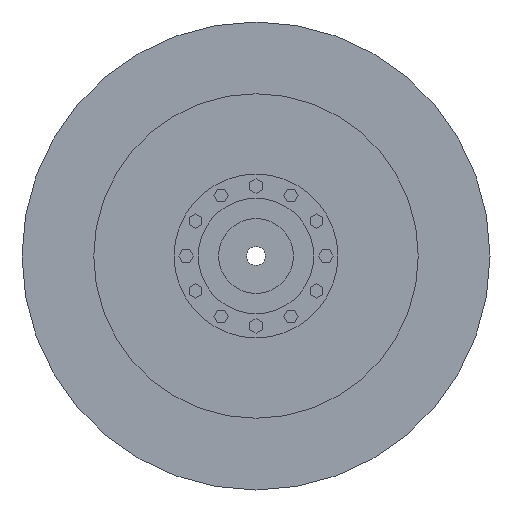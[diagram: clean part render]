
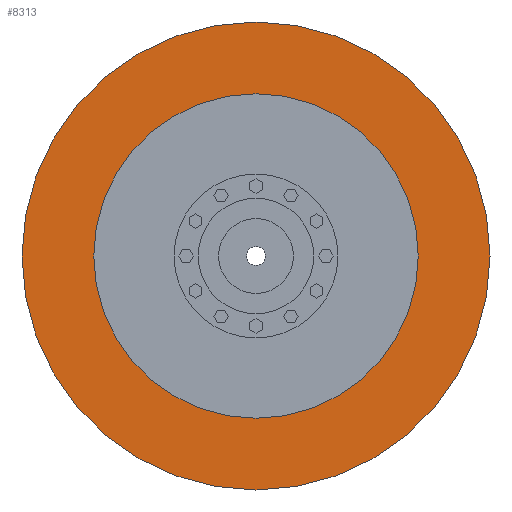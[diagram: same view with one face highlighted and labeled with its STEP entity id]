
A CAD part, left-side view. The second image highlights one B-rep face of the part: STEP entity #8313.
In plain terms, the highlighted planar face has unit normal (-1, 0, 0).
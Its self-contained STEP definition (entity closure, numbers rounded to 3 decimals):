
#8110=CARTESIAN_POINT('',(-37.,0.,0.));
#8111=DIRECTION('',(-1.,0.,0.));
#8112=DIRECTION('',(0.,1.,0.));
#8113=AXIS2_PLACEMENT_3D('',#8110,#8111,#8112);
#8115=CARTESIAN_POINT('',(-37.,0.,0.));
#8116=DIRECTION('',(1.,0.,0.));
#8117=DIRECTION('',(0.,1.,0.));
#8118=AXIS2_PLACEMENT_3D('',#8115,#8116,#8117);
#8120=CARTESIAN_POINT('',(-37.,0.,0.));
#8121=DIRECTION('',(1.,0.,0.));
#8122=DIRECTION('',(0.,1.,0.));
#8123=AXIS2_PLACEMENT_3D('',#8120,#8121,#8122);
#8133=CARTESIAN_POINT('',(-37.,0.,0.));
#8134=DIRECTION('',(-1.,0.,0.));
#8135=DIRECTION('',(0.,1.,0.));
#8136=AXIS2_PLACEMENT_3D('',#8133,#8134,#8135);
#8156=CARTESIAN_POINT('',(-37.,104.,0.));
#8158=VERTEX_POINT('',#8156);
#8168=CARTESIAN_POINT('',(-37.,-104.,0.));
#8170=VERTEX_POINT('',#8168);
#8173=CARTESIAN_POINT('',(-37.,150.,0.));
#8175=VERTEX_POINT('',#8173);
#8177=CARTESIAN_POINT('',(-37.,-150.,0.));
#8179=VERTEX_POINT('',#8177);
#8298=CARTESIAN_POINT('',(-37.,0.,0.));
#8299=DIRECTION('',(1.,0.,0.));
#8300=DIRECTION('',(0.,-1.,0.));
#8301=AXIS2_PLACEMENT_3D('',#8298,#8299,#8300);
#8302=PLANE('',#8301);
#8303=ORIENTED_EDGE('',*,*,#8291,.F.);
#8304=ORIENTED_EDGE('',*,*,#8280,.T.);
#8305=EDGE_LOOP('',(#8303,#8304));
#8306=FACE_OUTER_BOUND('',#8305,.F.);
#8308=ORIENTED_EDGE('',*,*,#8307,.F.);
#8310=ORIENTED_EDGE('',*,*,#8309,.T.);
#8311=EDGE_LOOP('',(#8308,#8310));
#8312=FACE_BOUND('',#8311,.F.);
#8313=ADVANCED_FACE('',(#8306,#8312),#8302,.F.);
#8114=CIRCLE('',#8113,150.);
#8119=CIRCLE('',#8118,150.);
#8124=CIRCLE('',#8123,104.);
#8137=CIRCLE('',#8136,104.);
#8280=EDGE_CURVE('',#8175,#8179,#8119,.T.);
#8291=EDGE_CURVE('',#8175,#8179,#8114,.T.);
#8307=EDGE_CURVE('',#8158,#8170,#8124,.T.);
#8309=EDGE_CURVE('',#8158,#8170,#8137,.T.);
